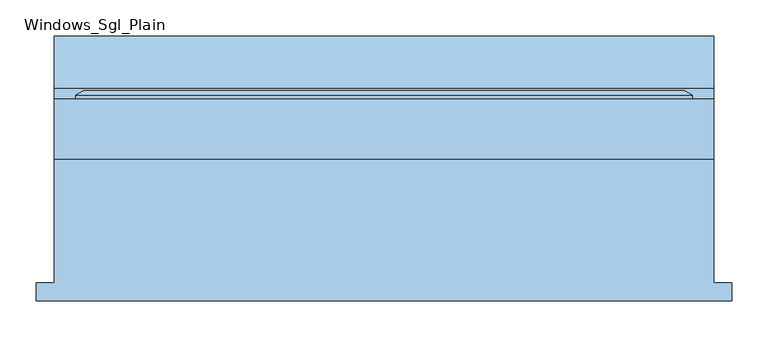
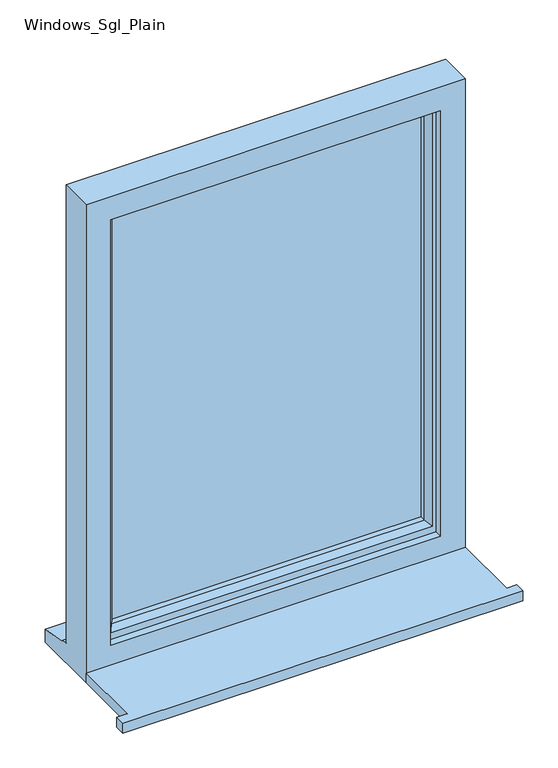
"""IFC4 building model written with IfcOpenShell, lengths in millimetres: window geometry."""

from ifc_helpers import new_model, si_unit, frame, origin, place, context, project, spatial, polyline, outline, extrude, faceted_brep, source, transform, mapped, element, save


def windows_sgl_plain_bc860a4c(model_context):
    return source(origin(), model_context, "Body", "SolidModel", [
        extrude(outline(polyline([(-482.2, -168.9434322), (-482.2, -143.9434322), (-457.2, -143.9434322), (-457.2, 27.8565678), (457.2, 27.8565678), (457.2, -143.9434322), (482.2, -143.9434322), (482.2, -168.9434322), (-482.2, -168.9434322)])), frame((0.0, 0.0, 890.8), z_axis=(0.0, 0.0, 1.0), x_axis=(1.0, 0.0, 0.0)), (0.0, 0.0, 1.0), 25.0),
        faceted_brep([(-457.2, 27.8565678, 890.8), (457.2, 27.8565678, 890.8), (457.2, 27.8565678, 2110.0), (-457.2, 27.8565678, 2110.0), (-397.2, 27.8565678, 2050.0), (397.2, 27.8565678, 2050.0), (397.2, 27.8565678, 965.8), (-397.2, 27.8565678, 965.8), (-457.2, 110.8565678, 2110.0), (-457.2, 110.8565678, 941.8), (-457.2, 125.8565678, 940.48767), (-457.2, 125.8565678, 935.5449676), (-457.2, 198.3565678, 924.6088847), (-457.2, 198.3565678, 890.8), (457.2, 110.8565678, 2110.0), (457.2, 110.8565678, 941.8), (-417.2, 110.8565678, 2070.0), (-417.2, 110.8565678, 953.8), (417.2, 110.8565678, 953.8), (417.2, 110.8565678, 2070.0), (-417.2, 45.8565678, 2070.0), (-417.2, 45.8565678, 953.8), (417.2, 45.8565678, 2070.0), (417.2, 45.8565678, 953.8), (-397.2, 45.8565678, 2050.0), (-397.2, 45.8565678, 965.8), (397.2, 45.8565678, 965.8), (397.2, 45.8565678, 2050.0), (457.2, 198.3565678, 890.8), (457.2, 198.3565678, 924.6088847), (457.2, 125.8565678, 935.5449676), (457.2, 125.8565678, 940.48767)], [[[0, 1, 2, 3], [4, 5, 6, 7]], [[0, 3, 8, 9, 10, 11, 12, 13]], [[9, 8, 14, 15], [16, 17, 18, 19]], [[17, 16, 20, 21]], [[20, 22, 23, 21], [24, 25, 26, 27]], [[24, 4, 7, 25]], [[3, 2, 14, 8]], [[16, 19, 22, 20]], [[5, 4, 24, 27]], [[15, 14, 2, 1, 28, 29, 30, 31]], [[19, 18, 23, 22]], [[5, 27, 26, 6]], [[28, 1, 0, 13]], [[29, 28, 13, 12]], [[30, 29, 12, 11]], [[31, 30, 11, 10]], [[15, 31, 10, 9]], [[21, 23, 18, 17]], [[7, 6, 26, 25]]]),
        extrude(outline(polyline([(387.2, 74.8565678), (-387.2, 74.8565678), (-387.2, 98.8565678), (387.2, 98.8565678), (387.2, 74.8565678)])), frame((0.0, 0.0, 983.8), z_axis=(0.0, 0.0, 1.0), x_axis=(1.0, 0.0, 0.0)), (0.0, 0.0, 1.0), 1056.2),
        faceted_brep([(-427.2, 110.8565678, 2080.0), (-427.2, 116.6300705, 2080.0), (-427.2, 116.6300705, 943.8), (-427.2, 110.8565678, 943.8), (-417.2, 45.8565678, 2070.0), (-417.2, 110.8565678, 2070.0), (-417.2, 110.8565678, 953.8), (-417.2, 45.8565678, 953.8), (-377.2, 60.3494677, 2030.0), (-387.3480377, 45.8565678, 2040.1480377), (-387.3480377, 45.8565678, 983.6519623), (-377.2, 60.3494677, 993.8), (-377.2, 74.8565678, 2030.0), (-377.2, 74.8565678, 993.8), (-387.2, 98.8565678, 2040.0), (-387.2, 74.8565678, 2040.0), (-387.2, 74.8565678, 983.8), (-387.2, 98.8565678, 983.8), (-377.2, 116.6300705, 2030.0), (-377.2, 98.8565678, 2030.0), (-377.2, 98.8565678, 993.8), (-377.2, 116.6300705, 993.8), (-394.6457548, 122.4035732, 2047.4457548), (-394.6457548, 122.4035732, 976.3542452), (-416.4153903, 122.4035732, 2069.2153903), (-416.4153903, 122.4035732, 954.5846097), (427.2, 116.6300705, 943.8), (427.2, 110.8565678, 943.8), (417.2, 110.8565678, 953.8), (417.2, 45.8565678, 953.8), (387.3480377, 45.8565678, 983.6519623), (377.2, 60.3494677, 993.8), (377.2, 74.8565678, 993.8), (387.2, 74.8565678, 983.8), (387.2, 98.8565678, 983.8), (377.2, 98.8565678, 993.8), (377.2, 116.6300705, 993.8), (394.6457548, 122.4035732, 976.3542452), (416.4153903, 122.4035732, 954.5846097), (427.2, 116.6300705, 2080.0), (427.2, 110.8565678, 2080.0), (417.2, 110.8565678, 2070.0), (417.2, 45.8565678, 2070.0), (387.3480377, 45.8565678, 2040.1480377), (377.2, 60.3494677, 2030.0), (377.2, 74.8565678, 2030.0), (387.2, 74.8565678, 2040.0), (387.2, 98.8565678, 2040.0), (377.2, 98.8565678, 2030.0), (377.2, 116.6300705, 2030.0), (394.6457548, 122.4035732, 2047.4457548), (416.4153903, 122.4035732, 2069.2153903)], [[[0, 1, 2, 3]], [[4, 5, 6, 7]], [[8, 9, 10, 11]], [[12, 8, 11, 13]], [[14, 15, 16, 17]], [[18, 19, 20, 21]], [[22, 18, 21, 23]], [[1, 24, 25, 2]], [[3, 2, 26, 27]], [[7, 6, 28, 29]], [[11, 10, 30, 31]], [[13, 11, 31, 32]], [[17, 16, 33, 34]], [[21, 20, 35, 36]], [[23, 21, 36, 37]], [[2, 25, 38, 26]], [[27, 26, 39, 40]], [[29, 28, 41, 42]], [[31, 30, 43, 44]], [[32, 31, 44, 45]], [[34, 33, 46, 47]], [[36, 35, 48, 49]], [[37, 36, 49, 50]], [[26, 38, 51, 39]], [[40, 39, 1, 0]], [[3, 27, 40, 0], [5, 41, 28, 6]], [[42, 41, 5, 4]], [[7, 29, 42, 4], [9, 43, 30, 10]], [[44, 43, 9, 8]], [[45, 44, 8, 12]], [[15, 46, 33, 16], [13, 32, 45, 12]], [[47, 46, 15, 14]], [[17, 34, 47, 14], [19, 48, 35, 20]], [[49, 48, 19, 18]], [[50, 49, 18, 22]], [[24, 51, 38, 25], [23, 37, 50, 22]], [[39, 51, 24, 1]]]),
    ])


if __name__ == "__main__":
    model = new_model("IFC4")
    model_context = context("Model", 3, world=origin())
    ifc_project = project(units=[si_unit("LENGTHUNIT", "METRE", prefix="MILLI")], contexts=[model_context])
    site = spatial("IfcSite", under=ifc_project)
    building = spatial("IfcBuilding", under=site)
    placement = place(None, origin())
    windows_sgl_plain_shape = windows_sgl_plain_bc860a4c(model_context)
    element("IfcWindow", 1, ObjectType="Windows_Sgl_Plain : 36\"' x 48\"", at=placement, inside=building, context=model_context, shape_type="MappedRepresentation", body=[
        mapped(windows_sgl_plain_shape, transform((0.0, 0.0, 0.0), x_axis=(1.0, 0.0, 0.0), y_axis=(0.0, 1.0, 0.0), z_axis=(0.0, 0.0, 1.0))),
    ])
    save(model, "model.ifc")
